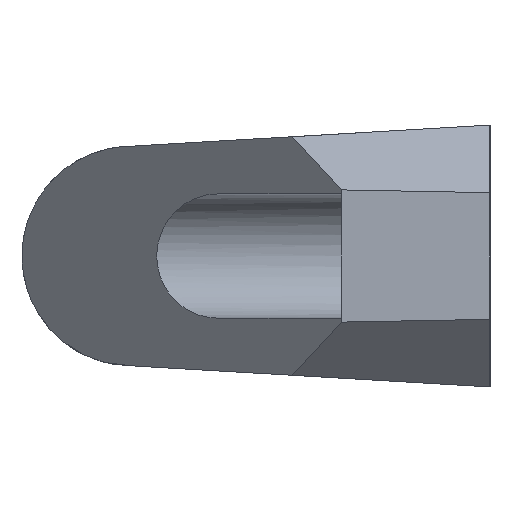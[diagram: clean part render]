
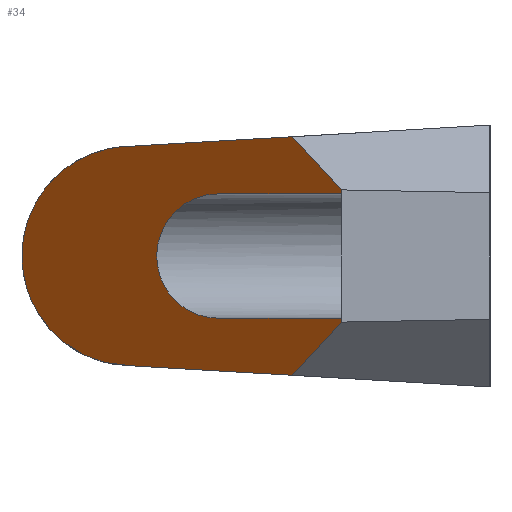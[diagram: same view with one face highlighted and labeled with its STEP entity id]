
A CAD part, left-side view. The second image highlights one B-rep face of the part: STEP entity #34.
In plain terms, the highlighted planar face has unit normal (-0.701, 0.714, 0).
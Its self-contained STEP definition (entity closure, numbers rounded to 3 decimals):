
#30 = ORIENTED_EDGE ( 'NONE', *, *, #126, .F. ) ;
#31 = VERTEX_POINT ( 'NONE', #792 ) ;
#33 = VERTEX_POINT ( 'NONE', #830 ) ;
#34 = ADVANCED_FACE ( 'NONE', ( #779 ), #869, .F. ) ;
#35 = EDGE_CURVE ( 'NONE', #458, #31, #866, .T. ) ;
#117 = VERTEX_POINT ( 'NONE', #934 ) ;
#118 = EDGE_LOOP ( 'NONE', ( #30, #137, #158, #138, #155, #146, #147, #134, #162, #151 ) ) ;
#119 = EDGE_CURVE ( 'NONE', #388, #407, #929, .T. ) ;
#120 = EDGE_CURVE ( 'NONE', #117, #125, #984, .T. ) ;
#125 = VERTEX_POINT ( 'NONE', #980 ) ;
#126 = EDGE_CURVE ( 'NONE', #31, #33, #970, .T. ) ;
#134 = ORIENTED_EDGE ( 'NONE', *, *, #153, .F. ) ;
#137 = ORIENTED_EDGE ( 'NONE', *, *, #35, .F. ) ;
#138 = ORIENTED_EDGE ( 'NONE', *, *, #119, .F. ) ;
#146 = ORIENTED_EDGE ( 'NONE', *, *, #389, .F. ) ;
#147 = ORIENTED_EDGE ( 'NONE', *, *, #148, .F. ) ;
#148 = EDGE_CURVE ( 'NONE', #157, #421, #998, .T. ) ;
#151 = ORIENTED_EDGE ( 'NONE', *, *, #165, .F. ) ;
#153 = EDGE_CURVE ( 'NONE', #125, #157, #1020, .T. ) ;
#155 = ORIENTED_EDGE ( 'NONE', *, *, #465, .F. ) ;
#157 = VERTEX_POINT ( 'NONE', #1033 ) ;
#158 = ORIENTED_EDGE ( 'NONE', *, *, #502, .F. ) ;
#162 = ORIENTED_EDGE ( 'NONE', *, *, #120, .F. ) ;
#165 = EDGE_CURVE ( 'NONE', #33, #117, #1059, .T. ) ;
#385 = VERTEX_POINT ( 'NONE', #1476 ) ;
#388 = VERTEX_POINT ( 'NONE', #1503 ) ;
#389 = EDGE_CURVE ( 'NONE', #421, #385, #1502, .T. ) ;
#407 = VERTEX_POINT ( 'NONE', #1566 ) ;
#421 = VERTEX_POINT ( 'NONE', #1539 ) ;
#458 = VERTEX_POINT ( 'NONE', #1668 ) ;
#465 = EDGE_CURVE ( 'NONE', #385, #388, #1727, .T. ) ;
#502 = EDGE_CURVE ( 'NONE', #407, #458, #1787, .T. ) ;
#779 = FACE_OUTER_BOUND ( 'NONE', #118, .T. ) ;
#792 = CARTESIAN_POINT ( 'NONE',  ( -215.2, 32.225, 7.35 ) ) ;
#830 = CARTESIAN_POINT ( 'NONE',  ( -215.2, 32.225, -7.35 ) ) ;
#856 = DIRECTION ( 'NONE',  ( 0.713, 0.701, 0. ) ) ;
#857 = VECTOR ( 'NONE', #856, 1000. ) ;
#862 = DIRECTION ( 'NONE',  ( -0.713, -0.701, 0. ) ) ;
#863 = DIRECTION ( 'NONE',  ( 0.701, -0.713, 0. ) ) ;
#864 = CARTESIAN_POINT ( 'NONE',  ( -230.093, 17.6, 15.5 ) ) ;
#865 = AXIS2_PLACEMENT_3D ( 'NONE', #864, #863, #862 ) ;
#866 = LINE ( 'NONE', #867, #857 ) ;
#867 = CARTESIAN_POINT ( 'NONE',  ( -230.093, 17.6, 7.35 ) ) ;
#869 = PLANE ( 'NONE',  #865 ) ;
#928 = CARTESIAN_POINT ( 'NONE',  ( -227.459, 20.187, 10.617 ) ) ;
#929 = LINE ( 'NONE', #928, #987 ) ;
#934 = CARTESIAN_POINT ( 'NONE',  ( -230.093, 17.6, -7.35 ) ) ;
#966 = CARTESIAN_POINT ( 'NONE',  ( -215.2, 32.225, -7.35 ) ) ;
#967 = CARTESIAN_POINT ( 'NONE',  ( -200.5, 46.66, -7.35 ) ) ;
#968 = CARTESIAN_POINT ( 'NONE',  ( -200.5, 46.66, 7.35 ) ) ;
#969 = CARTESIAN_POINT ( 'NONE',  ( -215.2, 32.225, 7.35 ) ) ;
#970 =( BOUNDED_CURVE ( )  B_SPLINE_CURVE ( 3, ( #969, #968, #967, #966 ),
 .UNSPECIFIED., .F., .T. ) 
 B_SPLINE_CURVE_WITH_KNOTS ( ( 4, 4 ),
 ( 1.571, 4.712 ),
 .UNSPECIFIED. ) 
 CURVE ( )  GEOMETRIC_REPRESENTATION_ITEM ( )  RATIONAL_B_SPLINE_CURVE ( ( 1., 0.333, 0.333, 1. ) ) 
 REPRESENTATION_ITEM ( '' )  );
#980 = CARTESIAN_POINT ( 'NONE',  ( -230.093, 17.6, -7.826 ) ) ;
#981 = DIRECTION ( 'NONE',  ( 0., 0., -1. ) ) ;
#982 = VECTOR ( 'NONE', #981, 1000. ) ;
#983 = CARTESIAN_POINT ( 'NONE',  ( -230.093, 17.6, 15.5 ) ) ;
#984 = LINE ( 'NONE', #983, #982 ) ;
#986 = DIRECTION ( 'NONE',  ( -0.569, -0.559, -0.603 ) ) ;
#987 = VECTOR ( 'NONE', #986, 1000. ) ;
#994 = DIRECTION ( 'NONE',  ( -0.713, -0.701, 0. ) ) ;
#995 = CARTESIAN_POINT ( 'NONE',  ( -230.093, 17.6, -7.35 ) ) ;
#996 = VECTOR ( 'NONE', #1036, 1000. ) ;
#997 = CARTESIAN_POINT ( 'NONE',  ( -229.211, 18.466, -14.411 ) ) ;
#998 = LINE ( 'NONE', #997, #996 ) ;
#1020 = LINE ( 'NONE', #1066, #1065 ) ;
#1021 = VECTOR ( 'NONE', #994, 1000. ) ;
#1033 = CARTESIAN_POINT ( 'NONE',  ( -224.154, 23.432, -14.118 ) ) ;
#1036 = DIRECTION ( 'NONE',  ( 0.713, 0.7, 0.041 ) ) ;
#1059 = LINE ( 'NONE', #995, #1021 ) ;
#1064 = DIRECTION ( 'NONE',  ( 0.569, 0.559, -0.603 ) ) ;
#1065 = VECTOR ( 'NONE', #1064, 1000. ) ;
#1066 = CARTESIAN_POINT ( 'NONE',  ( -238.099, 9.738, 0.658 ) ) ;
#1476 = CARTESIAN_POINT ( 'NONE',  ( -204.838, 42.4, 13. ) ) ;
#1496 = CARTESIAN_POINT ( 'NONE',  ( -204.838, 42.4, 13. ) ) ;
#1497 = CARTESIAN_POINT ( 'NONE',  ( -178.362, 68.4, 13. ) ) ;
#1498 = CARTESIAN_POINT ( 'NONE',  ( -178.362, 68.4, -13. ) ) ;
#1499 = CARTESIAN_POINT ( 'NONE',  ( -204.838, 42.4, -13. ) ) ;
#1502 =( BOUNDED_CURVE ( )  B_SPLINE_CURVE ( 3, ( #1499, #1498, #1497, #1496 ),
 .UNSPECIFIED., .F., .T. ) 
 B_SPLINE_CURVE_WITH_KNOTS ( ( 4, 4 ),
 ( 4.712, 7.854 ),
 .UNSPECIFIED. ) 
 CURVE ( )  GEOMETRIC_REPRESENTATION_ITEM ( )  RATIONAL_B_SPLINE_CURVE ( ( 1., 0.333, 0.333, 1. ) ) 
 REPRESENTATION_ITEM ( '' )  );
#1503 = CARTESIAN_POINT ( 'NONE',  ( -224.154, 23.432, 14.118 ) ) ;
#1539 = CARTESIAN_POINT ( 'NONE',  ( -204.838, 42.4, -13. ) ) ;
#1566 = CARTESIAN_POINT ( 'NONE',  ( -230.093, 17.6, 7.826 ) ) ;
#1668 = CARTESIAN_POINT ( 'NONE',  ( -230.093, 17.6, 7.35 ) ) ;
#1724 = DIRECTION ( 'NONE',  ( -0.713, -0.7, 0.041 ) ) ;
#1725 = VECTOR ( 'NONE', #1724, 1000. ) ;
#1726 = CARTESIAN_POINT ( 'NONE',  ( -230.123, 17.57, 14.464 ) ) ;
#1727 = LINE ( 'NONE', #1726, #1725 ) ;
#1732 = VECTOR ( 'NONE', #1796, 1000. ) ;
#1786 = CARTESIAN_POINT ( 'NONE',  ( -230.093, 17.6, 15.5 ) ) ;
#1787 = LINE ( 'NONE', #1786, #1732 ) ;
#1796 = DIRECTION ( 'NONE',  ( 0., 0., -1. ) ) ;
